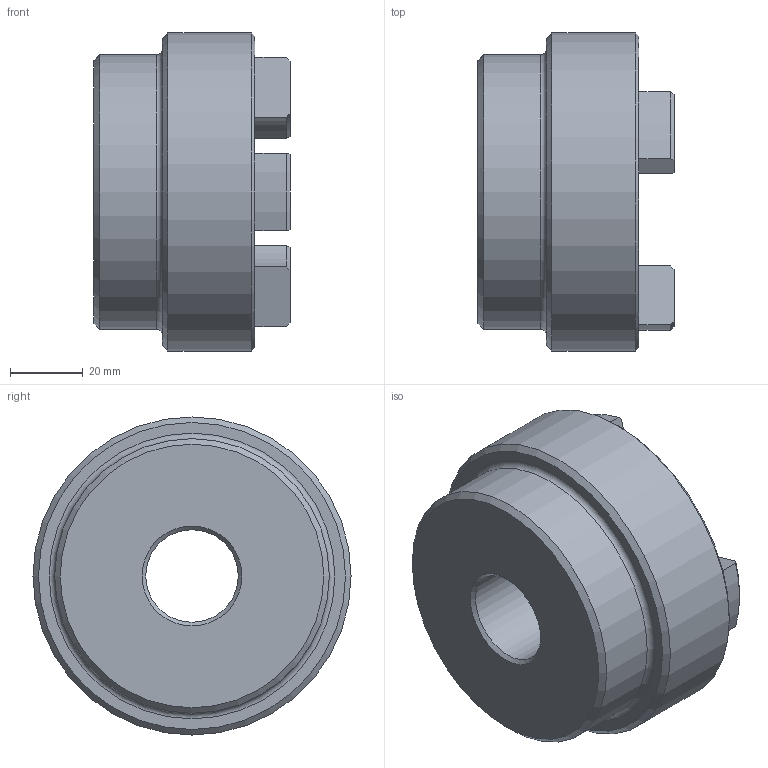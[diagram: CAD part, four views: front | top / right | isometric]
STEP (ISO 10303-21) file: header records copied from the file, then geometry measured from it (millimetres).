
FILE_DESCRIPTION (( 'STEP AP203' ), '1' );
FILE_NAME ('RC3.step', '2024-07-24T12:46:33', ( 'Adlan' ), ( '' ), 'SwSTEP 2.0', 'SolidWorks 2013', '' );
FILE_SCHEMA (( 'CONFIG_CONTROL_DESIGN' ));
Length unit declared in the file: inch
Products named in the file (1): RC3
Bounding box: 53.85 x 87.38 x 87.38 mm (x, y, z)
Volume: 179958.2 mm3; surface area: 29690.6 mm2
Topology: 1 solids, 1 shells, 60 faces, 146 edges, 90 vertices
Faces by surface type: cylinder 24, plane 13, torus 13, cone 10
Full cylindrical faces by diameter (mm): 25.408 x1, 75.438 x1, 87.376 x1
Entity records: 1841 total; most frequent: CARTESIAN_POINT 341, DIRECTION 324, ORIENTED_EDGE 274, EDGE_CURVE 137, AXIS2_PLACEMENT_3D 132, VERTEX_POINT 89, EDGE_LOOP 72, CIRCLE 71
